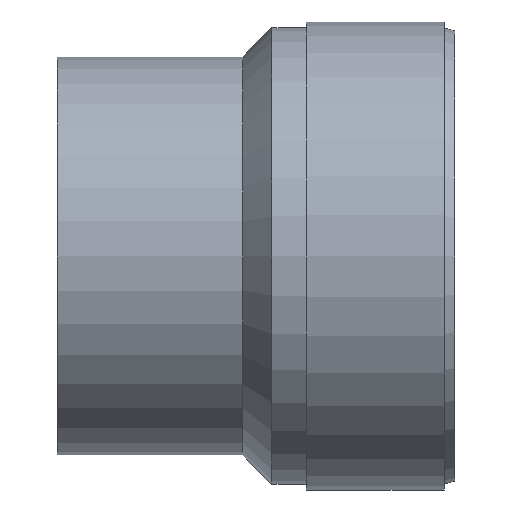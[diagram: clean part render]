
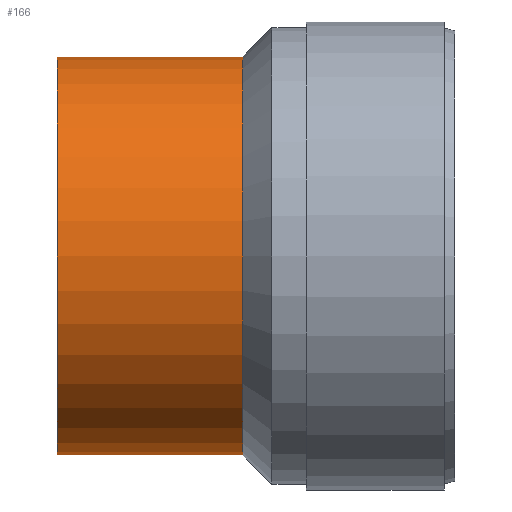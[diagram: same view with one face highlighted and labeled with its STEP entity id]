
A CAD part, front view. The second image highlights one B-rep face of the part: STEP entity #166.
In plain terms, the highlighted cylindrical face has radius 37.5 mm (diameter 75 mm), a full revolution.
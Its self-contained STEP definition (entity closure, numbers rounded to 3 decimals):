
#25=CYLINDRICAL_SURFACE($,#195,37.5);
#39=FACE_BOUND($,#76,.T.);
#53=FACE_OUTER_BOUND($,#75,.T.);
#75=EDGE_LOOP($,(#145));
#76=EDGE_LOOP($,(#146));
#89=CIRCLE($,#184,37.5);
#94=CIRCLE($,#194,37.5);
#103=VERTEX_POINT($,#277);
#108=VERTEX_POINT($,#292);
#117=EDGE_CURVE($,#103,#103,#89,.T.);
#122=EDGE_CURVE($,#108,#108,#94,.T.);
#145=ORIENTED_EDGE($,*,*,#117,.F.);
#146=ORIENTED_EDGE($,*,*,#122,.T.);
#166=ADVANCED_FACE($,(#53,#39),#25,.T.);
#184=AXIS2_PLACEMENT_3D($,#278,#225,#226);
#194=AXIS2_PLACEMENT_3D($,#293,#245,#246);
#195=AXIS2_PLACEMENT_3D($,#294,#247,#248);
#225=DIRECTION('center_axis',(1.,0.,0.));
#226=DIRECTION('ref_axis',(0.,1.,0.));
#245=DIRECTION('center_axis',(1.,0.,0.));
#246=DIRECTION('ref_axis',(0.,1.,0.));
#247=DIRECTION('center_axis',(1.,0.,0.));
#248=DIRECTION('ref_axis',(0.,1.,0.));
#277=CARTESIAN_POINT('',(35.,37.5,0.));
#278=CARTESIAN_POINT('Origin',(35.,0.,0.));
#292=CARTESIAN_POINT('',(0.,37.5,0.));
#293=CARTESIAN_POINT('Origin',(0.,0.,
0.));
#294=CARTESIAN_POINT('Origin',(17.5,0.,0.));
